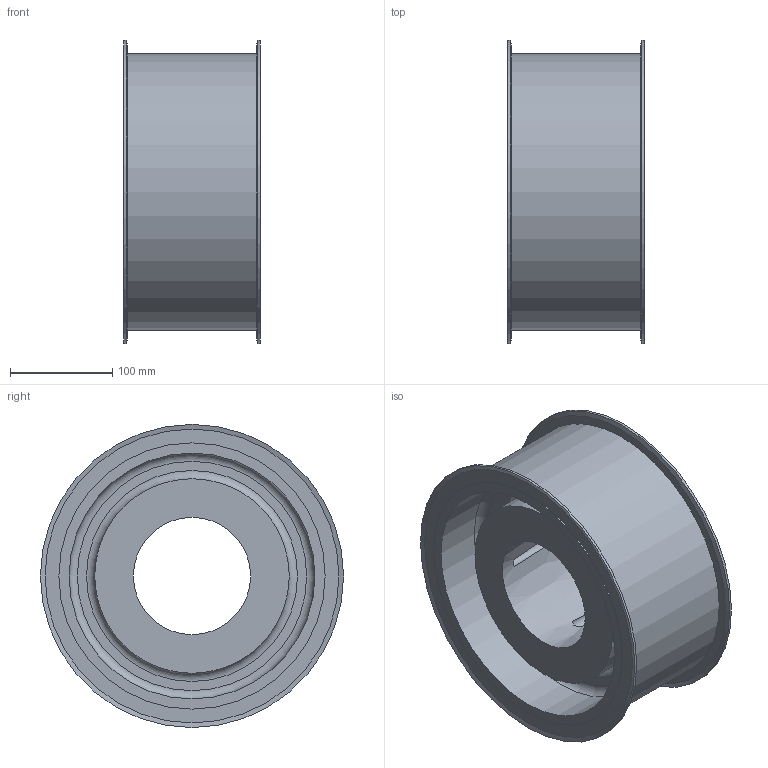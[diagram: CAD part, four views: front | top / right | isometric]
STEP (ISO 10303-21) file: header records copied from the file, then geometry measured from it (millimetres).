
FILE_DESCRIPTION(/* description */ (''),/* implementation_level */ '2;1');
FILE_NAME(/* name */ 'C:\Users\stagistaCAD\Desktop\41690064.stp',/* time_stamp */ '2018-06-21T10:17:53+02:00',/* author */ ('stagistacad'),/* organization */ (''),/* preprocessor_version */ 'ST-DEVELOPER v15.6',/* originating_system */ 'Autodesk Inventor 2015',/* authorisation */ '');
FILE_SCHEMA (('AUTOMOTIVE_DESIGN { 1 0 10303 214 3 1 1 }'));
Length unit declared in the file: millimetre
Products named in the file (1): 41690064
Bounding box: 133.41 x 296 x 296 mm (x, y, z)
Volume: 3570801.6 mm3; surface area: 398750.8 mm2
Topology: 1 solids, 1 shells, 44 faces, 104 edges, 65 vertices
Faces by surface type: cylinder 17, plane 13, cone 10, torus 4
Full cylindrical faces by diameter (mm): 190 x2, 240 x2, 260 x2, 269.61 x1, 296 x2
Entity records: 1252 total; most frequent: CARTESIAN_POINT 336, DIRECTION 198, ORIENTED_EDGE 150, AXIS2_PLACEMENT_3D 99, EDGE_CURVE 75, EDGE_LOOP 72, VERTEX_POINT 59, CIRCLE 54
